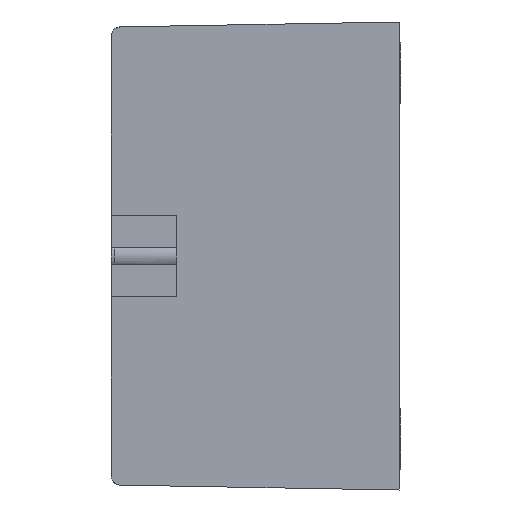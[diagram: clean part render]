
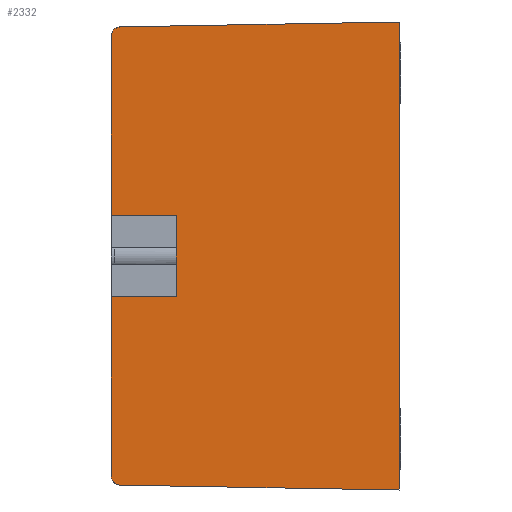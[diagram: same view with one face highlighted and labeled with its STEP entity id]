
A CAD part, left-side view. The second image highlights one B-rep face of the part: STEP entity #2332.
In plain terms, the highlighted planar face has unit normal (-1, 0.018, 0).
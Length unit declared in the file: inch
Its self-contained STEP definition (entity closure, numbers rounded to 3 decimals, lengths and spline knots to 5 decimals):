
#2332 = ADVANCED_FACE ( 'NONE', ( #11317 ), #11305, .T. ) ;
#2784 = AXIS2_PLACEMENT_3D ( 'NONE', #11309, #11321, #11323 ) ;
#3281 = EDGE_CURVE ( 'NONE', #15443, #15447, #6678, .T. ) ;
#4193 = EDGE_CURVE ( 'NONE', #15742, #15739, #8551, .T. ) ;
#4194 = EDGE_CURVE ( 'NONE', #15742, #15642, #16299, .T. ) ;
#4195 = EDGE_CURVE ( 'NONE', #15642, #15443, #8567, .T. ) ;
#4196 = EDGE_CURVE ( 'NONE', #16180, #15447, #8570, .T. ) ;
#4197 = EDGE_CURVE ( 'NONE', #16180, #15644, #16301, .T. ) ;
#4198 = EDGE_CURVE ( 'NONE', #16184, #15644, #8577, .T. ) ;
#4199 = EDGE_CURVE ( 'NONE', #16184, #15647, #8580, .T. ) ;
#4200 = EDGE_CURVE ( 'NONE', #15647, #15648, #8583, .T. ) ;
#4201 = EDGE_CURVE ( 'NONE', #15648, #15739, #8586, .T. ) ;
#6678 = LINE ( 'NONE', #6687, #12458 ) ;
#6687 = CARTESIAN_POINT ( 'NONE',  ( -1.375, 0., 1.4375 ) ) ;
#6689 = DIRECTION ( 'NONE',  ( 0., 0., 1. ) ) ;
#8001 = VECTOR ( 'NONE', #8569, 39.37008 ) ;
#8020 = VECTOR ( 'NONE', #8562, 39.37008 ) ;
#8022 = VECTOR ( 'NONE', #8585, 39.37008 ) ;
#8023 = VECTOR ( 'NONE', #8579, 39.37008 ) ;
#8024 = VECTOR ( 'NONE', #8572, 39.37008 ) ;
#8026 = VECTOR ( 'NONE', #8582, 39.37008 ) ;
#8027 = VECTOR ( 'NONE', #8588, 39.37008 ) ;
#8551 = LINE ( 'NONE', #8552, #8020 ) ;
#8552 = CARTESIAN_POINT ( 'NONE',  ( -1.34409, 1.771, -1.4375 ) ) ;
#8557 = CARTESIAN_POINT ( 'NONE',  ( -1.34409, 1.771, -1.34763 ) ) ;
#8558 = CARTESIAN_POINT ( 'NONE',  ( -1.34409, 1.771, -1.38229 ) ) ;
#8562 = DIRECTION ( 'NONE',  ( 0., 0., 1. ) ) ;
#8563 = CARTESIAN_POINT ( 'NONE',  ( -1.34512, 1.71205, 1.40762 ) ) ;
#8564 = CARTESIAN_POINT ( 'NONE',  ( -1.34451, 1.7467, 1.40701 ) ) ;
#8565 = CARTESIAN_POINT ( 'NONE',  ( -1.34451, 1.7467, -1.40701 ) ) ;
#8566 = CARTESIAN_POINT ( 'NONE',  ( -1.34512, 1.71205, -1.40762 ) ) ;
#8567 = LINE ( 'NONE', #8568, #8001 ) ;
#8568 = CARTESIAN_POINT ( 'NONE',  ( -1.37412, 0.05015, -1.43662 ) ) ;
#8569 = DIRECTION ( 'NONE',  ( -0.017, -1., -0.017 ) ) ;
#8570 = LINE ( 'NONE', #8571, #8024 ) ;
#8571 = CARTESIAN_POINT ( 'NONE',  ( -1.375, 0., 1.4375 ) ) ;
#8572 = DIRECTION ( 'NONE',  ( -0.017, -1., 0.017 ) ) ;
#8575 = CARTESIAN_POINT ( 'NONE',  ( -1.34409, 1.771, 1.38229 ) ) ;
#8576 = CARTESIAN_POINT ( 'NONE',  ( -1.34409, 1.771, 1.34763 ) ) ;
#8577 = LINE ( 'NONE', #8578, #8023 ) ;
#8578 = CARTESIAN_POINT ( 'NONE',  ( -1.34409, 1.771, -1.4375 ) ) ;
#8579 = DIRECTION ( 'NONE',  ( 0., 0., 1. ) ) ;
#8580 = LINE ( 'NONE', #8581, #8026 ) ;
#8581 = CARTESIAN_POINT ( 'NONE',  ( -1.37482, 0.01049, 0.23464 ) ) ;
#8582 = DIRECTION ( 'NONE',  ( -0.017, -1., -0.009 ) ) ;
#8583 = LINE ( 'NONE', #8584, #8022 ) ;
#8584 = CARTESIAN_POINT ( 'NONE',  ( -1.35107, 1.371, 1.4375 ) ) ;
#8585 = DIRECTION ( 'NONE',  ( 0., 0., -1. ) ) ;
#8586 = LINE ( 'NONE', #8587, #8027 ) ;
#8587 = CARTESIAN_POINT ( 'NONE',  ( -1.37525, -0.01459, -0.23442 ) ) ;
#8588 = DIRECTION ( 'NONE',  ( 0.017, 1., -0.009 ) ) ;
#11305 = PLANE ( 'NONE',  #2784 ) ;
#11309 = CARTESIAN_POINT ( 'NONE',  ( -1.375, 0., 1.4375 ) ) ;
#11317 = FACE_OUTER_BOUND ( 'NONE', #12746, .T. ) ;
#11321 = DIRECTION ( 'NONE',  ( -1., 0.017, 0. ) ) ;
#11323 = DIRECTION ( 'NONE',  ( -0.017, -1., 0. ) ) ;
#11610 = CARTESIAN_POINT ( 'NONE',  ( -1.375, 0., -1.4375 ) ) ;
#11614 = CARTESIAN_POINT ( 'NONE',  ( -1.375, 0., 1.4375 ) ) ;
#11809 = CARTESIAN_POINT ( 'NONE',  ( -1.34512, 1.71205, -1.40762 ) ) ;
#11811 = CARTESIAN_POINT ( 'NONE',  ( -1.34409, 1.771, 1.34763 ) ) ;
#11814 = CARTESIAN_POINT ( 'NONE',  ( -1.35107, 1.371, 0.24651 ) ) ;
#11815 = CARTESIAN_POINT ( 'NONE',  ( -1.35107, 1.371, -0.24651 ) ) ;
#11906 = CARTESIAN_POINT ( 'NONE',  ( -1.34409, 1.771, -0.25 ) ) ;
#11909 = CARTESIAN_POINT ( 'NONE',  ( -1.34409, 1.771, -1.34763 ) ) ;
#12136 = CARTESIAN_POINT ( 'NONE',  ( -1.34512, 1.71205, 1.40762 ) ) ;
#12139 = CARTESIAN_POINT ( 'NONE',  ( -1.34409, 1.771, 0.25 ) ) ;
#12458 = VECTOR ( 'NONE', #6689, 39.37008 ) ;
#12746 = EDGE_LOOP ( 'NONE', ( #13989, #13990, #13991, #13992, #13993, #13994, #13995, #13996, #13997, #13998 ) ) ;
#13989 = ORIENTED_EDGE ( 'NONE', *, *, #4193, .F. ) ;
#13990 = ORIENTED_EDGE ( 'NONE', *, *, #4194, .T. ) ;
#13991 = ORIENTED_EDGE ( 'NONE', *, *, #4195, .T. ) ;
#13992 = ORIENTED_EDGE ( 'NONE', *, *, #3281, .T. ) ;
#13993 = ORIENTED_EDGE ( 'NONE', *, *, #4196, .F. ) ;
#13994 = ORIENTED_EDGE ( 'NONE', *, *, #4197, .T. ) ;
#13995 = ORIENTED_EDGE ( 'NONE', *, *, #4198, .F. ) ;
#13996 = ORIENTED_EDGE ( 'NONE', *, *, #4199, .T. ) ;
#13997 = ORIENTED_EDGE ( 'NONE', *, *, #4200, .T. ) ;
#13998 = ORIENTED_EDGE ( 'NONE', *, *, #4201, .T. ) ;
#15443 = VERTEX_POINT ( 'NONE', #11610 ) ;
#15447 = VERTEX_POINT ( 'NONE', #11614 ) ;
#15642 = VERTEX_POINT ( 'NONE', #11809 ) ;
#15644 = VERTEX_POINT ( 'NONE', #11811 ) ;
#15647 = VERTEX_POINT ( 'NONE', #11814 ) ;
#15648 = VERTEX_POINT ( 'NONE', #11815 ) ;
#15739 = VERTEX_POINT ( 'NONE', #11906 ) ;
#15742 = VERTEX_POINT ( 'NONE', #11909 ) ;
#16180 = VERTEX_POINT ( 'NONE', #12136 ) ;
#16184 = VERTEX_POINT ( 'NONE', #12139 ) ;
#16299 =( BOUNDED_CURVE ( )  B_SPLINE_CURVE ( 3, ( #8557, #8558, #8565, #8566 ),
 .UNSPECIFIED., .F., .T. ) 
 B_SPLINE_CURVE_WITH_KNOTS ( ( 4, 4 ),
 ( 0., 1.55334 ),
 .UNSPECIFIED. ) 
 CURVE ( )  GEOMETRIC_REPRESENTATION_ITEM ( )  RATIONAL_B_SPLINE_CURVE ( ( 1., 0.809, 0.809, 1. ) ) 
 REPRESENTATION_ITEM ( '' )  );
#16301 =( BOUNDED_CURVE ( )  B_SPLINE_CURVE ( 3, ( #8563, #8564, #8575, #8576 ),
 .UNSPECIFIED., .F., .T. ) 
 B_SPLINE_CURVE_WITH_KNOTS ( ( 4, 4 ),
 ( 1.58825, 3.14159 ),
 .UNSPECIFIED. ) 
 CURVE ( )  GEOMETRIC_REPRESENTATION_ITEM ( )  RATIONAL_B_SPLINE_CURVE ( ( 1., 0.809, 0.809, 1. ) ) 
 REPRESENTATION_ITEM ( '' )  );
